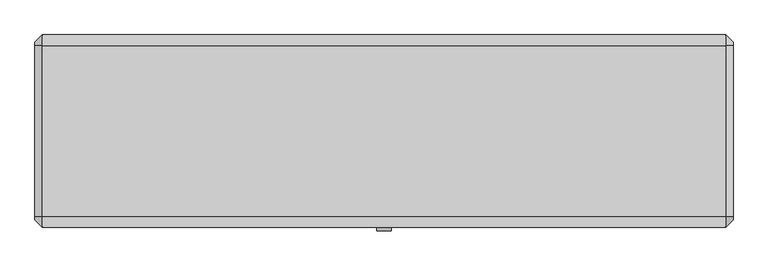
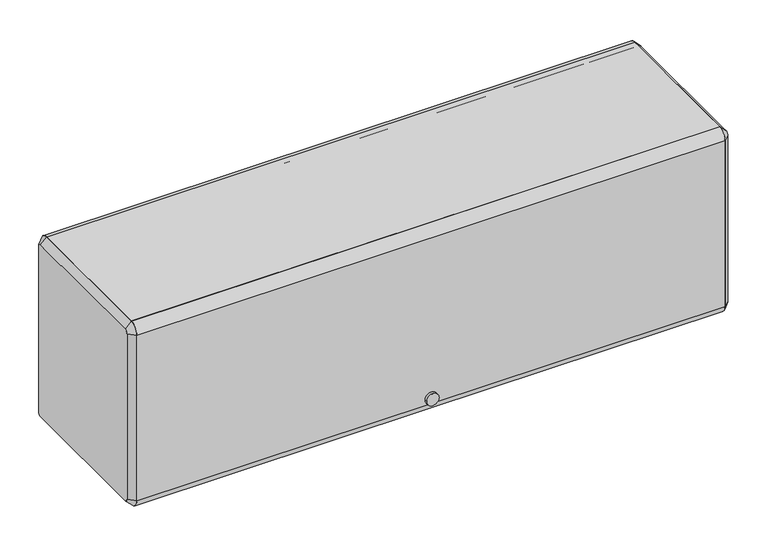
"""IFC4 building model written with IfcOpenShell, lengths in millimetres: furniture geometry."""

import ifcopenshell
import ifcopenshell.guid

model = None  # the IFC model being written
_history = None  # IfcOwnerHistory: only IFC2X3 demands one
_inside = {}  # id of a spatial element -> (the spatial element, [elements in it])
_under = {}  # id of a project, library or spatial element -> (it, [spatial elements below it])
_declared = {}  # id of a project -> (the project, [libraries it declares])
_typed = {}  # id of a type object -> (the type object, [elements of that type])
_made_of = {}  # id of a material, layer set ... -> (it, [elements and type objects made of it])


def new_model(schema):
    """Start an empty IFC model of exactly this schema.

    Asked for "IFC4X3", IfcOpenShell would pick the latest addendum, in which some entities
    have other attributes; the version numbers below select the first issue.
    IFC2X3 requires an IfcOwnerHistory on every rooted entity: one is made here for all.
    """
    global model, _history
    if schema == "IFC4X3":
        model = ifcopenshell.file(schema_version=(4, 3, 0, 0))
    else:
        model = ifcopenshell.file(schema=schema)
    _inside.clear()
    _under.clear()
    _declared.clear()
    _typed.clear()
    _made_of.clear()
    _history = None
    if model.schema == "IFC2X3":
        org = make("IfcOrganization", Name="unknown")
        user = make(
            "IfcPersonAndOrganization",
            ThePerson=make("IfcPerson", FamilyName="unknown"),
            TheOrganization=org,
        )
        app = make(
            "IfcApplication",
            ApplicationDeveloper=org,
            Version="unknown",
            ApplicationFullName="unknown",
            ApplicationIdentifier="unknown",
        )
        _history = make(
            "IfcOwnerHistory",
            OwningUser=user,
            OwningApplication=app,
            ChangeAction="ADDED",
            CreationDate=0,
        )
    return model


def make(cls, **values):
    """One entity of the class cls with the attributes given. An attribute that is None is left unset."""
    return model.create_entity(
        cls, **{name: value for name, value in values.items() if value is not None}
    )


def rooted(cls, **values):
    """An entity with a GlobalId (a new one), such as an element, a storey or a relation."""
    return make(cls, GlobalId=ifcopenshell.guid.new(), OwnerHistory=_history, **values)


def si_unit(unit_type, name, prefix=None):
    """IfcSIUnit, for example si_unit("LENGTHUNIT", "METRE", prefix="MILLI")."""
    return make("IfcSIUnit", UnitType=unit_type, Prefix=prefix, Name=name)


def assignment(units):
    """IfcUnitAssignment: the units of a project."""
    return None if units is None else make("IfcUnitAssignment", Units=units)


def point(xyz):
    """IfcCartesianPoint."""
    return None if xyz is None else make("IfcCartesianPoint", Coordinates=xyz)


def direction(xyz):
    """IfcDirection."""
    return None if xyz is None else make("IfcDirection", DirectionRatios=xyz)


def frame(location, z_axis=None, x_axis=None):
    """IfcAxis2Placement3D, a coordinate frame: its origin and axes. An axis left out is left unset."""
    return make(
        "IfcAxis2Placement3D",
        Location=point(location),
        Axis=direction(z_axis),
        RefDirection=direction(x_axis),
    )


def frame_2d(location, x_axis=None):
    """IfcAxis2Placement2D, a coordinate frame in the plane: its origin and x axis."""
    return make(
        "IfcAxis2Placement2D", Location=point(location), RefDirection=direction(x_axis)
    )


def origin():
    """The frame at (0, 0, 0) with its axes left unset."""
    return frame((0.0, 0.0, 0.0))


def place(relative_to, where):
    """IfcLocalPlacement: puts the frame where relative to a parent placement (None: the world)."""
    return make(
        "IfcLocalPlacement", PlacementRelTo=relative_to, RelativePlacement=where
    )


def context(
    kind, dimensions, precision=None, world=None, true_north=None, identifier=None
):
    """IfcGeometricRepresentationContext, for example the 3D "Model" context."""
    return make(
        "IfcGeometricRepresentationContext",
        ContextIdentifier=identifier,
        ContextType=kind,
        CoordinateSpaceDimension=dimensions,
        Precision=precision,
        WorldCoordinateSystem=world,
        TrueNorth=true_north,
    )


def project(units=None, contexts=None):
    """IfcProject with its units and contexts."""
    return rooted(
        "IfcProject",
        Name="project",
        RepresentationContexts=contexts,
        UnitsInContext=assignment(units),
    )


def spatial(cls, under=None, at=None, **own):
    """A site, building, storey or space (cls), placed at a placement, below another one or the project."""
    s = rooted(cls, ObjectPlacement=at, **own)
    if under is not None:
        _under.setdefault(under.id(), (under, []))[1].append(s)
    return s


def polyline(points):
    """IfcPolyline through the points."""
    return make("IfcPolyline", Points=[point(p) for p in points])


def circle_curve(where, radius):
    """IfcCircle in the frame where."""
    return make("IfcCircle", Position=where, Radius=radius)


def trimmed(basis, trim1, trim2, sense, master):
    """IfcTrimmedCurve: the piece of a basis curve between two trims."""
    return make(
        "IfcTrimmedCurve",
        BasisCurve=basis,
        Trim1=trim1,
        Trim2=trim2,
        SenseAgreement=sense,
        MasterRepresentation=master,
    )


def segment(curve, same_sense, transition):
    """IfcCompositeCurveSegment."""
    return make(
        "IfcCompositeCurveSegment",
        Transition=transition,
        SameSense=same_sense,
        ParentCurve=curve,
    )


def composite_curve(segments, self_intersect=None):
    """IfcCompositeCurve: segments joined end to end."""
    return make("IfcCompositeCurve", Segments=segments, SelfIntersect=self_intersect)


def outline(outer, holes=None, kind="AREA"):
    """IfcArbitraryClosedProfileDef: a profile drawn as a closed curve; with holes, ...WithVoids."""
    if holes is None:
        return make("IfcArbitraryClosedProfileDef", ProfileType=kind, OuterCurve=outer)
    return make(
        "IfcArbitraryProfileDefWithVoids",
        ProfileType=kind,
        OuterCurve=outer,
        InnerCurves=holes,
    )


def extrude(swept, where, along, depth):
    """IfcExtrudedAreaSolid: the profile swept, set in the frame where, extruded along a direction by depth."""
    return make(
        "IfcExtrudedAreaSolid",
        SweptArea=swept,
        Position=where,
        ExtrudedDirection=direction(along),
        Depth=depth,
    )


def shape(context_of_items, identifier, shape_type, items):
    """IfcShapeRepresentation: the items that make up one representation, for example the "Body"."""
    return make(
        "IfcShapeRepresentation",
        ContextOfItems=context_of_items,
        RepresentationIdentifier=identifier,
        RepresentationType=shape_type,
        Items=items,
    )


def source(mapping_origin, context_of_items, identifier, shape_type, items):
    """IfcRepresentationMap: a shape defined once, which mapped items show again and again."""
    return make(
        "IfcRepresentationMap",
        MappingOrigin=mapping_origin,
        MappedRepresentation=shape(context_of_items, identifier, shape_type, items),
    )


def transform(
    local_origin,
    x_axis=None,
    y_axis=None,
    z_axis=None,
    scale=None,
    scale2=None,
    scale3=None,
    uniform=True,
):
    """IfcCartesianTransformationOperator3D, or its non-uniform kind. x_axis, y_axis, z_axis: its Axis1, 2, 3."""
    if uniform:
        return make(
            "IfcCartesianTransformationOperator3D",
            Axis1=direction(x_axis),
            Axis2=direction(y_axis),
            LocalOrigin=point(local_origin),
            Scale=scale,
            Axis3=direction(z_axis),
        )
    return make(
        "IfcCartesianTransformationOperator3DnonUniform",
        Axis1=direction(x_axis),
        Axis2=direction(y_axis),
        LocalOrigin=point(local_origin),
        Scale=scale,
        Axis3=direction(z_axis),
        Scale2=scale2,
        Scale3=scale3,
    )


def mapped(mapping_source, mapping_target):
    """IfcMappedItem: shows the shape of a source again, moved by a transform."""
    return make(
        "IfcMappedItem", MappingSource=mapping_source, MappingTarget=mapping_target
    )


def made_of(thing, what):
    """Note that an element or type object is made of a material, layer set ...; save() writes the relation."""
    if what is not None:
        _made_of.setdefault(what.id(), (what, []))[1].append(thing)
    return thing


def element(
    cls,
    number,
    at=None,
    inside=None,
    cuts=None,
    type_object=None,
    material=None,
    context=None,
    identifier="Body",
    shape_type=None,
    held_by="IfcProductDefinitionShape",
    body=None,
    shapes=None,
    **own,
):
    """One element of the class cls, such as IfcWall. Its Tag is "e" and its number.

    at: its placement. inside: the storey or other place that contains it. cuts: it is an
    opening in that element (IfcRelVoidsElement). A single representation is given by context,
    identifier, shape_type and body (its items); several are given by shapes. held_by: the class
    of the entity that holds the representations. save() writes the other relations.
    """
    e = rooted(cls, Tag="e%d" % number, ObjectPlacement=at, **own)
    if body is not None:
        shapes = [shape(context, identifier, shape_type, body)]
    if shapes is not None:
        e.Representation = make(held_by, Representations=shapes)
    if inside is not None:
        _inside.setdefault(inside.id(), (inside, []))[1].append(e)
    if cuts is not None:
        rooted(
            "IfcRelVoidsElement", RelatingBuildingElement=cuts, RelatedOpeningElement=e
        )
    if type_object is not None:
        _typed.setdefault(type_object.id(), (type_object, []))[1].append(e)
    return made_of(e, material)


def aggregate(whole, parts):
    """IfcRelAggregates: a whole, such as a stair, and the parts it consists of."""
    return rooted("IfcRelAggregates", RelatingObject=whole, RelatedObjects=parts)


def save(model, path):
    """Write the relations noted so far, then the file.

    IfcRelAggregates (storeys below a building ...), IfcRelContainedInSpatialStructure (elements
    in a storey), IfcRelDefinesByType, IfcRelAssociatesMaterial and IfcRelDeclares: one each for
    every whole, place, type object, material and project.
    """
    for whole, parts in _under.values():
        aggregate(whole, parts)
    for where, things in _inside.values():
        rooted(
            "IfcRelContainedInSpatialStructure",
            RelatedElements=things,
            RelatingStructure=where,
        )
    for kind, things in _typed.values():
        rooted("IfcRelDefinesByType", RelatedObjects=things, RelatingType=kind)
    for what, things in _made_of.values():
        rooted("IfcRelAssociatesMaterial", RelatedObjects=things, RelatingMaterial=what)
    for by, libraries in _declared.values():
        rooted("IfcRelDeclares", RelatingContext=by, RelatedDefinitions=libraries)
    model.write(path)


def plane_surface(at):
    """IfcPlane: the flat surface through the origin of the frame at, square to its z axis."""
    return make("IfcPlane", Position=at)


def revolved_surface(curve, axis_point, axis_direction):
    """IfcSurfaceOfRevolution: the curve turned about the line through axis_point along axis_direction."""
    return make(
        "IfcSurfaceOfRevolution",
        SweptCurve=make("IfcArbitraryOpenProfileDef", ProfileType="CURVE", Curve=curve),
        AxisPosition=make("IfcAxis1Placement", Location=point(axis_point), Axis=direction(axis_direction)),
    )


def advanced_brep(points, edges, surfaces, faces):
    """IfcAdvancedBrep: a solid bounded by faces that lie on surfaces and meet in shared edges.

    An edge is (start, end): straight between two places in points (the first is 0);
    or (start, end, curve); or (start, end, curve, False) where it runs against its curve.
    A face is (place in surfaces, loops), or (place, loops, False) where it looks against
    its surface's normal. A loop lists edges by number (the first is 1), with a minus sign
    where the edge is run from its end to its start. The first loop is the outer one.
    """
    corners = [point(p) for p in points]
    vertices = [make("IfcVertexPoint", VertexGeometry=c) for c in corners]
    made = []
    for start, end, *more in edges:
        made.append(
            make(
                "IfcEdgeCurve",
                EdgeStart=vertices[start],
                EdgeEnd=vertices[end],
                EdgeGeometry=more[0] if more else make("IfcPolyline", Points=[corners[start], corners[end]]),
                SameSense=more[1] if len(more) > 1 else True,
            )
        )
    hull = []
    for where, loops, *sense in faces:
        bounds = []
        for j, loop in enumerate(loops):
            ring = [make("IfcOrientedEdge", EdgeElement=made[abs(k) - 1], Orientation=k > 0) for k in loop]
            bounds.append(
                make(
                    "IfcFaceOuterBound" if j == 0 else "IfcFaceBound",
                    Bound=make("IfcEdgeLoop", EdgeList=ring),
                    Orientation=True,
                )
            )
        hull.append(make("IfcAdvancedFace", Bounds=bounds, FaceSurface=surfaces[where], SameSense=sense[0] if sense else True))
    return make("IfcAdvancedBrep", Outer=make("IfcClosedShell", CfsFaces=hull))


def furniture_6098a880(model_context):
    return source(origin(), model_context, "Body", "SolidModel", [
        extrude(outline(composite_curve([segment(polyline([(-136.525, 1689.1), (-136.525, 1701.8), (161.925, 1701.8)]), True, "CONTINUOUS"), segment(trimmed(circle_curve(frame_2d((161.925, 1682.75)), 19.05), [point((161.925, 1701.8))], [point((180.975, 1682.75))], False, "CARTESIAN"), True, "CONTINUOUS"), segment(polyline([(180.975, 1682.75), (168.275, 1682.75)]), True, "CONTINUOUS"), segment(trimmed(circle_curve(frame_2d((161.925, 1682.75)), 6.35), [point((168.275, 1682.75))], [point((161.925, 1689.1))], True, "CARTESIAN"), True, "CONTINUOUS"), segment(polyline([(161.925, 1689.1), (-136.525, 1689.1)]), True, "CONTINUOUS")], self_intersect=False)), frame((-596.9, 0.0, 0.0), z_axis=(1.0, 0.0, 0.0), x_axis=(0.0, 1.0, 0.0)), (0.0, 0.0, 1.0), 1193.8),
        extrude(outline(composite_curve([segment(trimmed(circle_curve(frame_2d((-136.525, 1682.75)), 19.05), [point((-155.575, 1682.75))], [point((-136.525, 1701.8))], False, "CARTESIAN"), True, "CONTINUOUS"), segment(polyline([(-136.525, 1701.8), (-136.525, 1689.1)]), True, "CONTINUOUS"), segment(trimmed(circle_curve(frame_2d((-136.525, 1682.75)), 6.35), [point((-136.525, 1689.1))], [point((-142.875, 1682.75))], True, "CARTESIAN"), True, "CONTINUOUS"), segment(polyline([(-142.875, 1682.75), (-142.875, 1327.15)]), True, "CONTINUOUS"), segment(trimmed(circle_curve(frame_2d((-136.525, 1327.15)), 6.35), [point((-142.875, 1327.15))], [point((-136.525, 1320.8))], True, "CARTESIAN"), True, "CONTINUOUS"), segment(polyline([(-136.525, 1320.8), (-136.525, 1308.1)]), True, "CONTINUOUS"), segment(trimmed(circle_curve(frame_2d((-136.525, 1327.15)), 19.05), [point((-136.525, 1308.1))], [point((-155.575, 1327.15))], False, "CARTESIAN"), True, "CONTINUOUS"), segment(polyline([(-155.575, 1327.15), (-155.575, 1682.75)]), True, "CONTINUOUS")], self_intersect=False)), frame((-596.9, 0.0, 0.0), z_axis=(1.0, 0.0, 0.0), x_axis=(0.0, 1.0, 0.0)), (0.0, 0.0, 1.0), 1193.8),
        extrude(outline(composite_curve([segment(trimmed(circle_curve(frame_2d((1339.8118906, 0.0201199)), 12.7253951), [point((1339.8118906, 12.745515))], [point((1339.8118906, -12.7052752))], False, "CARTESIAN"), True, "CONTINUOUS"), segment(trimmed(circle_curve(frame_2d((1339.8118906, 0.0201199)), 12.7253951), [point((1339.8118906, -12.7052752))], [point((1339.8118906, 12.745515))], False, "CARTESIAN"), True, "CONTINUOUS")], self_intersect=False)), frame((0.0, -161.925, 0.0), z_axis=(0.0, 1.0, 0.0), x_axis=(0.0, 0.0, 1.0)), (0.0, 0.0, 1.0), 6.35),
        extrude(outline(polyline([(-136.525, 1346.2), (161.925, 1346.2), (161.925, 1384.3), (174.625, 1384.3), (174.625, 1381.125), (165.1, 1381.125), (165.1, 1343.025), (-133.35, 1343.025), (-133.35, 1323.975), (-136.525, 1323.975), (-136.525, 1346.2)])), frame((-596.9, 0.0, 0.0), z_axis=(1.0, 0.0, 0.0), x_axis=(0.0, 1.0, 0.0)), (0.0, 0.0, 1.0), 1193.8),
        advanced_brep(
        [(609.6, 161.925, 1689.1), (609.6, -136.525, 1689.1), (609.6, -142.875, 1682.75), (609.6, -142.875, 1327.15), (609.6, -136.525, 1320.8), (609.6, 161.925, 1320.8), (609.6, 168.275, 1327.15), (609.6, 168.275, 1682.75), (596.9, 161.925, 1701.8), (596.9, 180.975, 1682.75), (596.9, 180.975, 1327.15), (596.9, 161.925, 1308.1), (596.9, -136.525, 1308.1), (596.9, -155.575, 1327.15), (596.9, -155.575, 1682.75), (596.9, -136.525, 1701.8)],
        [
            (0, 1),
            (1, 2, circle_curve(frame((609.6, -136.525, 1682.75), z_axis=(1.0, 6.4908078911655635e-12, -6.5867311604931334e-12), x_axis=(6.586694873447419e-12, 0.0, 1.0)), 6.35)),
            (2, 3),
            (3, 4, circle_curve(frame((609.6, -136.525, 1327.15), z_axis=(1.0, 3.37330163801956e-12, 3.3892888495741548e-12), x_axis=(3.373343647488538e-12, -1.0, 0.0)), 6.35)),
            (4, 5),
            (5, 6, circle_curve(frame((609.6, 161.925, 1327.15), z_axis=(1.0, 3.378630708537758e-12, -3.3892888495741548e-12), x_axis=(-3.3893585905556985e-12, 0.0, -1.0)), 6.35)),
            (6, 7),
            (7, 0, circle_curve(frame((609.6, 161.925, 1682.75), z_axis=(1.0, 6.4828142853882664e-12, 6.394884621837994e-12), x_axis=(-6.482754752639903e-12, 1.0, 0.0)), 6.35)),
            (8, 9, circle_curve(frame((596.9, 161.925, 1682.75), z_axis=(-1.0, -6.4828142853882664e-12, -6.394884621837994e-12), x_axis=(-6.482754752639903e-12, 1.0, 0.0)), 19.05)),
            (9, 10),
            (10, 11, circle_curve(frame((596.9, 161.925, 1327.15), z_axis=(-1.0, -3.378630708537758e-12, 3.3892888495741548e-12), x_axis=(-3.3893585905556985e-12, 0.0, -1.0)), 19.05)),
            (11, 12),
            (12, 13, circle_curve(frame((596.9, -136.525, 1327.15), z_axis=(-1.0, -3.37330163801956e-12, -3.3892888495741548e-12), x_axis=(3.373343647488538e-12, -1.0, 0.0)), 19.05)),
            (13, 14),
            (14, 15, circle_curve(frame((596.9, -136.525, 1682.75), z_axis=(-1.0, -6.4908078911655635e-12, 6.5867311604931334e-12), x_axis=(6.586694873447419e-12, 0.0, 1.0)), 19.05)),
            (15, 8),
            (15, 1),
            (0, 8),
            (14, 2),
            (13, 3),
            (12, 4),
            (11, 5),
            (10, 6),
            (9, 7),
        ],
        [
            plane_surface(frame((609.6, 12.7, 1504.95), z_axis=(1.0, 0.0, 0.0), x_axis=(0.0, -1.0, 0.0))),
            plane_surface(frame((596.9, 12.7, 1504.95), z_axis=(-1.0, 0.0, 0.0), x_axis=(0.0, -1.0, 0.0))),
            plane_surface(frame((596.9, 12.7, 1701.8), z_axis=(0.7071067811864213, 0.0, 0.7071067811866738), x_axis=(0.0, -1.0, 0.0))),
            revolved_surface(polyline([(609.6000000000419, -136.525, 1689.099999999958), (596.9, -136.525, 1701.8)]), (615.95, -136.525, 1682.75), (-1.0, -6.4908078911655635e-12, 6.5867311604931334e-12)),
            plane_surface(frame((596.9, -155.575, 1504.95), z_axis=(0.7071067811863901, -0.7071067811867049, 0.0), x_axis=(0.0, 0.0, -1.0))),
            revolved_surface(polyline([(609.6000000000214, -142.87499999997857, 1327.15), (596.8999999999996, -155.5750000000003, 1327.15)]), (615.95, -136.525, 1327.15), (-1.0, -3.37330163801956e-12, -3.3892888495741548e-12)),
            plane_surface(frame((596.9, 12.7, 1308.1), z_axis=(0.7071067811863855, 0.0, -0.7071067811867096), x_axis=(0.0, 1.0, 0.0))),
            revolved_surface(polyline([(609.6, 161.925, 1320.8), (596.8999999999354, 161.925, 1308.0999999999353)]), (615.95, 161.925, 1327.15), (-1.0, -3.378630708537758e-12, 3.3892888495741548e-12)),
            plane_surface(frame((596.9, 180.975, 1504.95), z_axis=(0.7071067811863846, 0.7071067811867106, 0.0), x_axis=(0.0, 0.0, 1.0))),
            revolved_surface(polyline([(609.6, 168.275, 1682.75), (596.8999999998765, 180.9750000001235, 1682.75)]), (615.95, 161.925, 1682.75), (-1.0, -6.4828142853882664e-12, -6.394884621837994e-12)),
        ],
        [
            (0, [[1, 2, 3, 4, 5, 6, 7, 8]]),
            (1, [[9, 10, 11, 12, 13, 14, 15, 16]]),
            (2, [[-16, 17, -1, 18]]),
            (3, [[-15, 19, -2, -17]]),
            (4, [[-14, 20, -3, -19]]),
            (5, [[-13, 21, -4, -20]]),
            (6, [[-12, 22, -5, -21]]),
            (7, [[-11, 23, -6, -22]]),
            (8, [[-10, 24, -7, -23]]),
            (9, [[-9, -18, -8, -24]]),
        ],
    ),
        advanced_brep(
        [(-609.6, -136.525, 1689.1), (-609.6, 161.925, 1689.1), (-609.6, 168.275, 1682.75), (-609.6, 168.275, 1327.15), (-609.6, 161.925, 1320.8), (-609.6, -136.525, 1320.8), (-609.6, -142.875, 1327.15), (-609.6, -142.875, 1682.75), (-596.9, -136.525, 1701.8), (-596.9, -155.575, 1682.75), (-596.9, -155.575, 1327.15), (-596.9, -136.525, 1308.1), (-596.9, 161.925, 1308.1), (-596.9, 180.975, 1327.15), (-596.9, 180.975, 1682.75), (-596.9, 161.925, 1701.8)],
        [
            (0, 1),
            (1, 2, circle_curve(frame((-609.6, 161.925, 1682.75), z_axis=(-1.0, 3.365308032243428e-12, 3.4319214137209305e-12), x_axis=(3.4319080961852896e-12, 0.0, 1.0)), 6.35)),
            (2, 3),
            (3, 4, circle_curve(frame((-609.6, 161.925, 1327.15), z_axis=(-1.0, 0.0, 0.0), x_axis=(0.0, 1.0, 0.0)), 6.35)),
            (4, 5),
            (5, 6, circle_curve(frame((-609.6, -136.525, 1327.15), z_axis=(-1.0, 0.0, 0.0), x_axis=(0.0, 0.0, -1.0)), 6.35)),
            (6, 7),
            (7, 0, circle_curve(frame((-609.6, -136.525, 1682.75), z_axis=(-1.0, 3.381295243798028e-12, -3.3040237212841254e-12), x_axis=(-3.3813511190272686e-12, -1.0, 0.0)), 6.35)),
            (8, 9, circle_curve(frame((-596.9, -136.525, 1682.75), z_axis=(1.0, -3.381295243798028e-12, 3.3040237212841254e-12), x_axis=(-3.3813511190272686e-12, -1.0, 0.0)), 19.05)),
            (9, 10),
            (10, 11, circle_curve(frame((-596.9, -136.525, 1327.15), z_axis=(1.0, 0.0, 0.0), x_axis=(0.0, 0.0, -1.0)), 19.05)),
            (11, 12),
            (12, 13, circle_curve(frame((-596.9, 161.925, 1327.15), z_axis=(1.0, 0.0, 0.0), x_axis=(0.0, 1.0, 0.0)), 19.05)),
            (13, 14),
            (14, 15, circle_curve(frame((-596.9, 161.925, 1682.75), z_axis=(1.0, -3.365308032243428e-12, -3.4319214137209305e-12), x_axis=(3.4319080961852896e-12, 0.0, 1.0)), 19.05)),
            (15, 8),
            (15, 1),
            (0, 8),
            (14, 2),
            (13, 3),
            (12, 4),
            (11, 5),
            (10, 6),
            (9, 7),
        ],
        [
            plane_surface(frame((-609.6, 12.7, 1504.95), z_axis=(-1.0, 0.0, 0.0), x_axis=(0.0, -1.0, 0.0))),
            plane_surface(frame((-596.9, 12.7, 1504.95), z_axis=(1.0, 0.0, 0.0), x_axis=(0.0, -1.0, 0.0))),
            plane_surface(frame((-596.9, 12.7, 1701.8), z_axis=(-0.7071067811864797, 0.0, 0.7071067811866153), x_axis=(0.0, 1.0, 0.0))),
            revolved_surface(polyline([(-609.6, 161.925, 1689.1), (-596.8999999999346, 161.925, 1701.8000000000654)]), (-615.95, 161.925, 1682.75), (1.0, -3.365308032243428e-12, -3.4319214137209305e-12)),
            plane_surface(frame((-596.9, 180.975, 1504.95), z_axis=(-0.7071067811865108, 0.7071067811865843, 0.0), x_axis=(0.0, 0.0, -1.0))),
            revolved_surface(polyline([(-609.6, 168.275, 1327.15), (-596.9, 180.975, 1327.15)]), (-615.95, 161.925, 1327.15), (1.0, 0.0, 0.0)),
            plane_surface(frame((-596.9, 12.7, 1308.1), z_axis=(-0.7071067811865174, 0.0, -0.7071067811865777), x_axis=(0.0, -1.0, 0.0))),
            revolved_surface(polyline([(-609.6, -136.525, 1320.8), (-596.9, -136.525, 1308.1)]), (-615.95, -136.525, 1327.15), (1.0, 0.0, 0.0)),
            plane_surface(frame((-596.9, -155.575, 1504.95), z_axis=(-0.7071067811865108, -0.7071067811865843, 0.0), x_axis=(0.0, 0.0, 1.0))),
            revolved_surface(polyline([(-609.6000000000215, -142.87499999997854, 1682.75), (-596.9, -155.575, 1682.75)]), (-615.95, -136.525, 1682.75), (1.0, -3.381295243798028e-12, 3.3040237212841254e-12)),
        ],
        [
            (0, [[1, 2, 3, 4, 5, 6, 7, 8]]),
            (1, [[9, 10, 11, 12, 13, 14, 15, 16]]),
            (2, [[-16, 17, -1, 18]]),
            (3, [[-15, 19, -2, -17]]),
            (4, [[-14, 20, -3, -19]]),
            (5, [[-13, 21, -4, -20]]),
            (6, [[-12, 22, -5, -21]]),
            (7, [[-11, 23, -6, -22]]),
            (8, [[-10, 24, -7, -23]]),
            (9, [[-9, -18, -8, -24]]),
        ],
    ),
    ])


if __name__ == "__main__":
    model = new_model("IFC4")
    model_context = context("Model", 3, world=origin())
    ifc_project = project(units=[si_unit("LENGTHUNIT", "METRE", prefix="MILLI")], contexts=[model_context])
    site = spatial("IfcSite", under=ifc_project)
    building = spatial("IfcBuilding", under=site)
    placement = place(None, origin())
    furniture_shape = furniture_6098a880(model_context)
    element("IfcFurniture", 1, ObjectType="HermanMiller_ActionOffice_A3352_B-StyleFlipperDoorUnit : 15 1/2\"H x 13\"D x 48\"W", at=placement, inside=building, context=model_context, shape_type="MappedRepresentation", body=[
        mapped(furniture_shape, transform((0.0, 0.0, 0.0), x_axis=(1.0, 0.0, 0.0), y_axis=(0.0, 1.0, 0.0), z_axis=(0.0, 0.0, 1.0))),
    ])
    save(model, "model.ifc")
